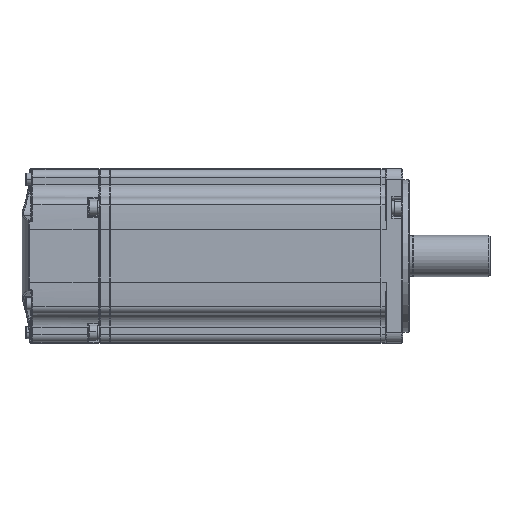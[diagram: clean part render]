
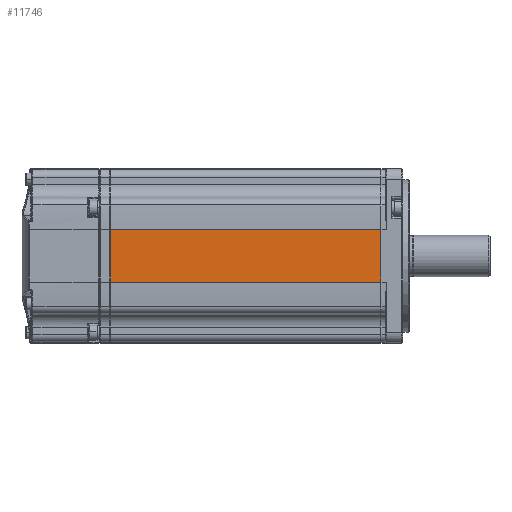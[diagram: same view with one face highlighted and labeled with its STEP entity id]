
A CAD part, top view. The second image highlights one B-rep face of the part: STEP entity #11746.
In plain terms, the highlighted planar face has unit normal (0, 0, 1).
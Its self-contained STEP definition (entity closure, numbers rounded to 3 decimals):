
#1426 = VECTOR ( 'NONE', #42904, 1000. ) ;
#2443 = CARTESIAN_POINT ( 'NONE',  ( -56.908, 5.099, 249.001 ) ) ;
#3896 = LINE ( 'NONE', #17552, #29760 ) ;
#4829 = ORIENTED_EDGE ( 'NONE', *, *, #13988, .T. ) ;
#4900 = AXIS2_PLACEMENT_3D ( 'NONE', #37876, #31204, #10974 ) ;
#6067 = DIRECTION ( 'NONE',  ( 0., 1., 0. ) ) ;
#10974 = DIRECTION ( 'NONE',  ( -1., 0., 0. ) ) ;
#11746 = ADVANCED_FACE ( 'NONE', ( #29524 ), #14235, .F. ) ;
#11881 = ORIENTED_EDGE ( 'NONE', *, *, #16259, .T. ) ;
#11996 = EDGE_CURVE ( 'NONE', #41868, #39836, #22129, .T. ) ;
#13170 = CARTESIAN_POINT ( 'NONE',  ( -56.908, -6.901, 249.001 ) ) ;
#13663 = LINE ( 'NONE', #18073, #31637 ) ;
#13988 = EDGE_CURVE ( 'NONE', #22938, #21539, #35688, .T. ) ;
#14235 = PLANE ( 'NONE',  #4900 ) ;
#15925 = ORIENTED_EDGE ( 'NONE', *, *, #28021, .F. ) ;
#16259 = EDGE_CURVE ( 'NONE', #21539, #41868, #3896, .T. ) ;
#17552 = CARTESIAN_POINT ( 'NONE',  ( -57.408, -6.901, 249.001 ) ) ;
#17598 = ORIENTED_EDGE ( 'NONE', *, *, #11996, .T. ) ;
#18073 = CARTESIAN_POINT ( 'NONE',  ( -57.408, 17.099, 249.001 ) ) ;
#19343 = EDGE_LOOP ( 'NONE', ( #15925, #4829, #11881, #17598 ) ) ;
#20914 = DIRECTION ( 'NONE',  ( 1., 0., 0. ) ) ;
#21287 = DIRECTION ( 'NONE',  ( 1., 0., 0. ) ) ;
#21539 = VERTEX_POINT ( 'NONE', #13170 ) ;
#22129 = LINE ( 'NONE', #36378, #37997 ) ;
#22938 = VERTEX_POINT ( 'NONE', #25414 ) ;
#25414 = CARTESIAN_POINT ( 'NONE',  ( -56.908, 17.099, 249.001 ) ) ;
#27011 = CARTESIAN_POINT ( 'NONE',  ( 67.092, -6.901, 249.001 ) ) ;
#28021 = EDGE_CURVE ( 'NONE', #22938, #39836, #13663, .T. ) ;
#29524 = FACE_OUTER_BOUND ( 'NONE', #19343, .T. ) ;
#29760 = VECTOR ( 'NONE', #20914, 1000. ) ;
#31204 = DIRECTION ( 'NONE',  ( 0., 0., -1. ) ) ;
#31637 = VECTOR ( 'NONE', #21287, 1000. ) ;
#35688 = LINE ( 'NONE', #2443, #1426 ) ;
#36378 = CARTESIAN_POINT ( 'NONE',  ( 67.092, 5.099, 249.001 ) ) ;
#37865 = CARTESIAN_POINT ( 'NONE',  ( 67.092, 17.099, 249.001 ) ) ;
#37876 = CARTESIAN_POINT ( 'NONE',  ( -57.408, 5.099, 249.001 ) ) ;
#37997 = VECTOR ( 'NONE', #6067, 1000. ) ;
#39836 = VERTEX_POINT ( 'NONE', #37865 ) ;
#41868 = VERTEX_POINT ( 'NONE', #27011 ) ;
#42904 = DIRECTION ( 'NONE',  ( 0., -1., 0. ) ) ;
